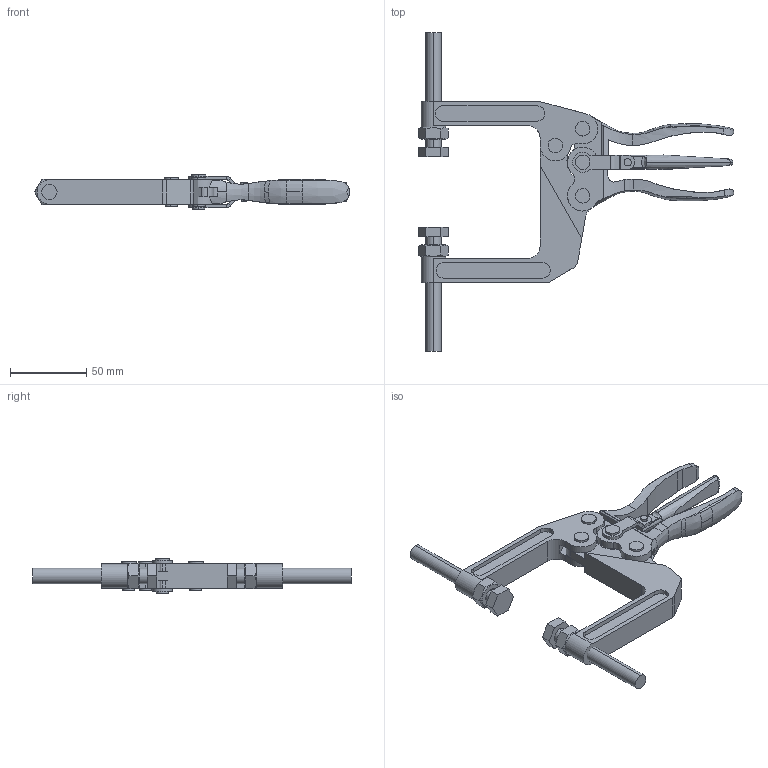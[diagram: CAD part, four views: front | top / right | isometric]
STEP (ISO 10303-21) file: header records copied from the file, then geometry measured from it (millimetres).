
FILE_DESCRIPTION (( 'STEP AP203' ), '1' );
FILE_NAME ('KFA-70.step', '2011-05-12T14:47:35', ( 'Usuario' ), ( '' ), 'SwSTEP 2.0', 'SolidWorks 2011', '' );
FILE_SCHEMA (( 'CONFIG_CONTROL_DESIGN' ));
Length unit declared in the file: millimetre
Products named in the file (12): KFA-70; 11.50003; 12.50004; 06.50047; 06.50013; 06.50039; 18.10013; 18.30001; 03.30005; 03.30003; 01.30005; 01.30004
Assembly tree (16 placements, depth 2):
  KFA-70
    03.30005
    03.30003
    06.50047
    01.30004
    18.30001
    06.50039  x3
    18.10013  x2
    06.50013
    11.50003  x2
    12.50004  x2
    01.30005
Bounding box: 206.81 x 209 x 23.5 mm (x, y, z)
Volume: 110632.7 mm3; surface area: 55970.4 mm2
Topology: 15 solids, 18 shells, 398 faces, 999 edges, 642 vertices
Faces by surface type: cylinder 199, plane 152, cone 26, bspline 21
Entity records: 13568 total; most frequent: CARTESIAN_POINT 4491, ORIENTED_EDGE 1636, DIRECTION 1556, EDGE_CURVE 821, AXIS2_PLACEMENT_3D 596, VERTEX_POINT 536, EDGE_LOOP 365, LINE 364
